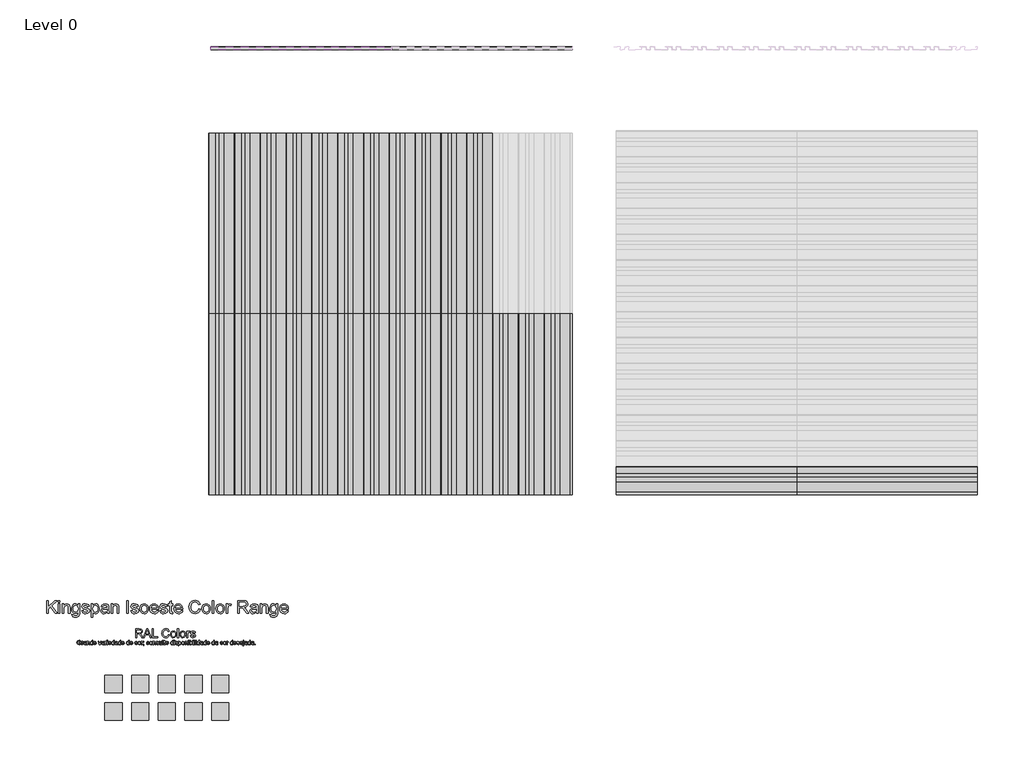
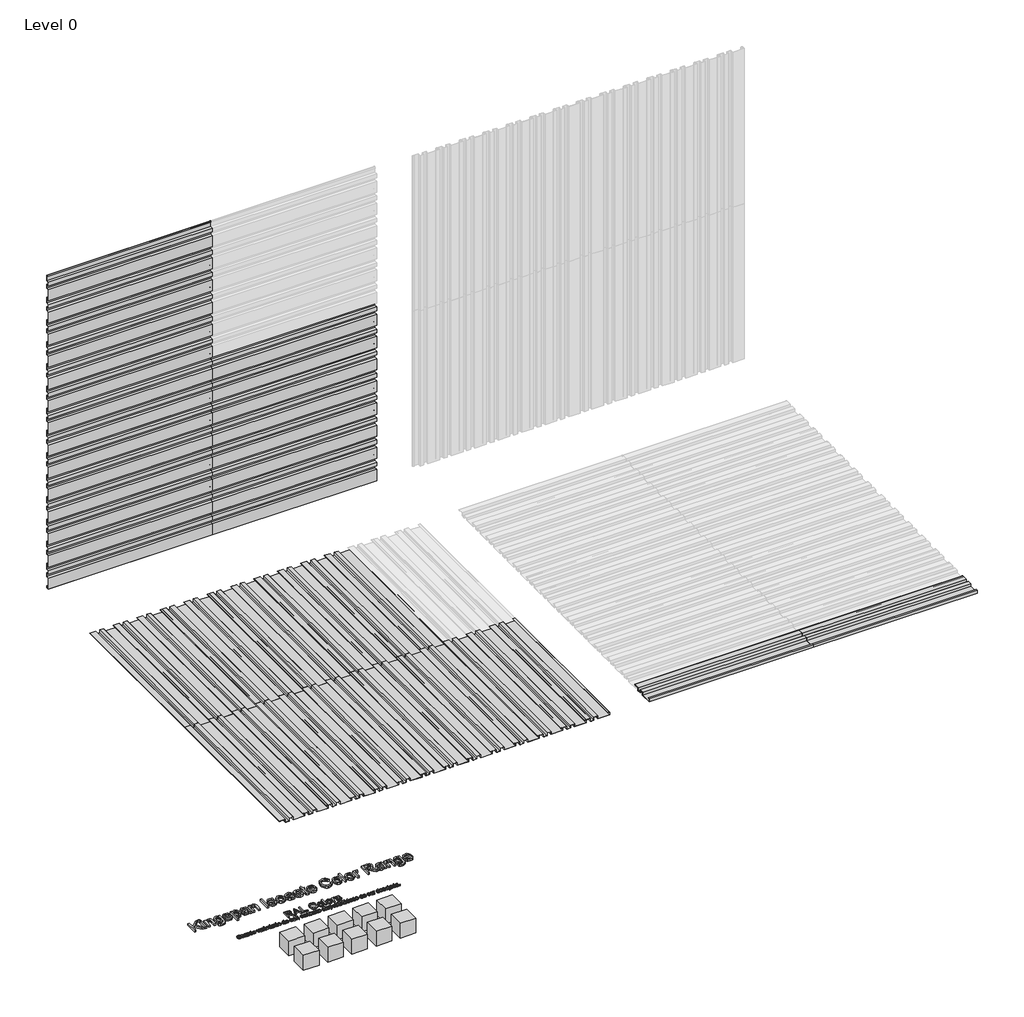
# One storey, part 1 of 2: 60 proxies.
"""IFC4 building model written with IfcOpenShell, lengths in millimetres."""

from ifc_helpers import new_model, si_unit, origin, place, context, project, spatial, transform, mapped, element, save
from components import proxy_32_ks_iso_colour_range_8220f766, proxy_32_ks_iso_colour_range_06d69407, ks_colour_sample_ks_colour_sample_0243efec, mx2_0_standard_panel_ns_31f8ef59, mx2_0_standard_panel_ns_8073d0a4

model = new_model("IFC4")

# Units and contexts
model_context = context("Model", 3, world=origin())
ifc_project = project(units=[si_unit("LENGTHUNIT", "METRE", prefix="MILLI")], contexts=[model_context])

# Site, building, storey
site = spatial("IfcSite", under=ifc_project)
building = spatial("IfcBuilding", under=site)
storey = spatial("IfcBuildingStorey", under=building, Name="Level 0", Elevation=0.0)

# Proxies
placement = place(None, origin())
proxy_32_ks_iso_colour_range_shape = proxy_32_ks_iso_colour_range_8220f766(model_context)
proxy_32_ks_iso_colour_range_2_shape = proxy_32_ks_iso_colour_range_06d69407(model_context)
element("IfcBuildingElementProxy", 1, Name="32-KS-ISO-Colour Range : Kingspan Isoeste Color Range", ObjectType="32-KS-ISO-Colour Range : Kingspan Isoeste Color Range", at=placement, inside=storey, context=model_context, shape_type="MappedRepresentation", body=[
    mapped(proxy_32_ks_iso_colour_range_shape, transform((-3929.8390717, -2223.0925896, 0.0), x_axis=(1.0, 0.0, 0.0), y_axis=(0.0, 1.0, 0.0), z_axis=(0.0, 0.0, 1.0))),
    mapped(proxy_32_ks_iso_colour_range_2_shape, transform((-3929.8390717, -2223.0925896, 0.0), x_axis=(1.0, 0.0, 0.0), y_axis=(0.0, 1.0, 0.0), z_axis=(0.0, 0.0, 1.0))),
])
ks_colour_sample_ks_colour_sample_shape = ks_colour_sample_ks_colour_sample_0243efec(model_context)
element("IfcBuildingElementProxy", 2, Name="KS_Colour Sample : KS_Colour Sample", ObjectType="KS_Colour Sample : KS_Colour Sample", at=placement, inside=storey, context=model_context, shape_type="MappedRepresentation", body=[
    mapped(ks_colour_sample_ks_colour_sample_shape, transform((-3309.8390717, -2663.0925896, 0.0), x_axis=(1.0, 0.0, 0.0), y_axis=(0.0, 1.0, 0.0), z_axis=(0.0, 0.0, 1.0))),
])
element("IfcBuildingElementProxy", 3, Name="KS_Colour Sample : KS_Colour Sample", ObjectType="KS_Colour Sample : KS_Colour Sample", at=placement, inside=storey, context=model_context, shape_type="MappedRepresentation", body=[
    mapped(ks_colour_sample_ks_colour_sample_shape, transform((-3309.8390717, -2343.0925896, 0.0), x_axis=(1.0, 0.0, 0.0), y_axis=(0.0, 1.0, 0.0), z_axis=(0.0, 0.0, 1.0))),
])
element("IfcBuildingElementProxy", 4, Name="KS_Colour Sample : KS_Colour Sample", ObjectType="KS_Colour Sample : KS_Colour Sample", at=placement, inside=storey, context=model_context, shape_type="MappedRepresentation", body=[
    mapped(ks_colour_sample_ks_colour_sample_shape, transform((-4549.8390717, -2663.0925896, 0.0), x_axis=(1.0, 0.0, 0.0), y_axis=(0.0, 1.0, 0.0), z_axis=(0.0, 0.0, 1.0))),
])
element("IfcBuildingElementProxy", 5, Name="KS_Colour Sample : KS_Colour Sample", ObjectType="KS_Colour Sample : KS_Colour Sample", at=placement, inside=storey, context=model_context, shape_type="MappedRepresentation", body=[
    mapped(ks_colour_sample_ks_colour_sample_shape, transform((-4239.8390717, -2663.0925896, 0.0), x_axis=(1.0, 0.0, 0.0), y_axis=(0.0, 1.0, 0.0), z_axis=(0.0, 0.0, 1.0))),
])
element("IfcBuildingElementProxy", 6, Name="KS_Colour Sample : KS_Colour Sample", ObjectType="KS_Colour Sample : KS_Colour Sample", at=placement, inside=storey, context=model_context, shape_type="MappedRepresentation", body=[
    mapped(ks_colour_sample_ks_colour_sample_shape, transform((-3619.8390717, -2663.0925896, 0.0), x_axis=(1.0, 0.0, 0.0), y_axis=(0.0, 1.0, 0.0), z_axis=(0.0, 0.0, 1.0))),
])
element("IfcBuildingElementProxy", 7, Name="KS_Colour Sample : KS_Colour Sample", ObjectType="KS_Colour Sample : KS_Colour Sample", at=placement, inside=storey, context=model_context, shape_type="MappedRepresentation", body=[
    mapped(ks_colour_sample_ks_colour_sample_shape, transform((-4549.8390717, -2343.0925896, 0.0), x_axis=(1.0, 0.0, 0.0), y_axis=(0.0, 1.0, 0.0), z_axis=(0.0, 0.0, 1.0))),
])
element("IfcBuildingElementProxy", 8, Name="KS_Colour Sample : KS_Colour Sample", ObjectType="KS_Colour Sample : KS_Colour Sample", at=placement, inside=storey, context=model_context, shape_type="MappedRepresentation", body=[
    mapped(ks_colour_sample_ks_colour_sample_shape, transform((-4239.8390717, -2343.0925896, 0.0), x_axis=(1.0, 0.0, 0.0), y_axis=(0.0, 1.0, 0.0), z_axis=(0.0, 0.0, 1.0))),
])
element("IfcBuildingElementProxy", 9, Name="KS_Colour Sample : KS_Colour Sample", ObjectType="KS_Colour Sample : KS_Colour Sample", at=placement, inside=storey, context=model_context, shape_type="MappedRepresentation", body=[
    mapped(ks_colour_sample_ks_colour_sample_shape, transform((-3619.8390717, -2343.0925896, 0.0), x_axis=(1.0, 0.0, 0.0), y_axis=(0.0, 1.0, 0.0), z_axis=(0.0, 0.0, 1.0))),
])
element("IfcBuildingElementProxy", 10, Name="KS_Colour Sample : KS_Colour Sample", ObjectType="KS_Colour Sample : KS_Colour Sample", at=placement, inside=storey, context=model_context, shape_type="MappedRepresentation", body=[
    mapped(ks_colour_sample_ks_colour_sample_shape, transform((-3929.8390717, -2343.0925896, 0.0), x_axis=(1.0, 0.0, 0.0), y_axis=(0.0, 1.0, 0.0), z_axis=(0.0, 0.0, 1.0))),
])
element("IfcBuildingElementProxy", 11, Name="KS_Colour Sample : KS_Colour Sample", ObjectType="KS_Colour Sample : KS_Colour Sample", at=placement, inside=storey, context=model_context, shape_type="MappedRepresentation", body=[
    mapped(ks_colour_sample_ks_colour_sample_shape, transform((-3929.8390717, -2663.0925896, 0.0), x_axis=(1.0, 0.0, 0.0), y_axis=(0.0, 1.0, 0.0), z_axis=(0.0, 0.0, 1.0))),
])
mx2_0_standard_panel_ns_shape = mx2_0_standard_panel_ns_31f8ef59(model_context)
element("IfcBuildingElementProxy", 12, Name="MX2.0 : Standard Panel_NS", ObjectType="MX2.0 : Standard Panel_NS", at=placement, inside=storey, context=model_context, shape_type="MappedRepresentation", body=[
    mapped(mx2_0_standard_panel_ns_shape, transform((-3417.7637295, 5063.0274074, 300.0), x_axis=(1.0, 0.0, 0.0), y_axis=(0.0, 0.0, 1.0), z_axis=(0.0, -1.0, 0.0))),
])
element("IfcBuildingElementProxy", 13, Name="MX2.0 : Standard Panel_NS", ObjectType="MX2.0 : Standard Panel_NS", at=placement, inside=storey, context=model_context, shape_type="MappedRepresentation", body=[
    mapped(mx2_0_standard_panel_ns_shape, transform((-3417.7637295, 5063.0274074, 2700.0), x_axis=(1.0, 0.0, 0.0), y_axis=(0.0, 0.0, 1.0), z_axis=(0.0, -1.0, 0.0))),
])
element("IfcBuildingElementProxy", 14, Name="MX2.0 : Standard Panel_NS", ObjectType="MX2.0 : Standard Panel_NS", at=placement, inside=storey, context=model_context, shape_type="MappedRepresentation", body=[
    mapped(mx2_0_standard_panel_ns_shape, transform((-1317.7637295, 5063.0274074, 300.0), x_axis=(1.0, 0.0, 0.0), y_axis=(0.0, 0.0, 1.0), z_axis=(0.0, -1.0, 0.0))),
])
mx2_0_standard_panel_ns_2_shape = mx2_0_standard_panel_ns_8073d0a4(model_context)
element("IfcBuildingElementProxy", 15, Name="MX2.0 : Standard Panel_NS", ObjectType="MX2.0 : Standard Panel_NS", at=placement, inside=storey, context=model_context, shape_type="MappedRepresentation", body=[
    mapped(mx2_0_standard_panel_ns_2_shape, transform((482.2362703, -141.6886547, 0.0), x_axis=(0.0, 1.0, 0.0), y_axis=(-1.0, 0.0, 0.0), z_axis=(0.0, 0.0, 1.0))),
])
element("IfcBuildingElementProxy", 16, Name="MX2.0 : Standard Panel_NS", ObjectType="MX2.0 : Standard Panel_NS", at=placement, inside=storey, context=model_context, shape_type="MappedRepresentation", body=[
    mapped(mx2_0_standard_panel_ns_2_shape, transform((-1917.7637297, -141.6886547, 0.0), x_axis=(0.0, 1.0, 0.0), y_axis=(-1.0, 0.0, 0.0), z_axis=(0.0, 0.0, 1.0))),
])
element("IfcBuildingElementProxy", 17, Name="MX2.0 : Standard Panel_NS", ObjectType="MX2.0 : Standard Panel_NS", at=placement, inside=storey, context=model_context, shape_type="MappedRepresentation", body=[
    mapped(mx2_0_standard_panel_ns_2_shape, transform((-1917.7637297, 1958.3113453, 0.0), x_axis=(0.0, 1.0, 0.0), y_axis=(-1.0, 0.0, 0.0), z_axis=(0.0, 0.0, 1.0))),
])
element("IfcBuildingElementProxy", 18, Name="MX2.0 : Standard Panel_NS", ObjectType="MX2.0 : Standard Panel_NS", at=placement, inside=storey, context=model_context, shape_type="MappedRepresentation", body=[
    mapped(mx2_0_standard_panel_ns_shape, transform((-3417.7637295, 5063.0274074, 0.0), x_axis=(1.0, 0.0, 0.0), y_axis=(0.0, 0.0, 1.0), z_axis=(0.0, -1.0, 0.0))),
])
element("IfcBuildingElementProxy", 19, Name="MX2.0 : Standard Panel_NS", ObjectType="MX2.0 : Standard Panel_NS", at=placement, inside=storey, context=model_context, shape_type="MappedRepresentation", body=[
    mapped(mx2_0_standard_panel_ns_shape, transform((-3417.7637295, 5063.0274074, 2400.0), x_axis=(1.0, 0.0, 0.0), y_axis=(0.0, 0.0, 1.0), z_axis=(0.0, -1.0, 0.0))),
])
element("IfcBuildingElementProxy", 20, Name="MX2.0 : Standard Panel_NS", ObjectType="MX2.0 : Standard Panel_NS", at=placement, inside=storey, context=model_context, shape_type="MappedRepresentation", body=[
    mapped(mx2_0_standard_panel_ns_shape, transform((-1317.7637295, 5063.0274074, 0.0), x_axis=(1.0, 0.0, 0.0), y_axis=(0.0, 0.0, 1.0), z_axis=(0.0, -1.0, 0.0))),
])
element("IfcBuildingElementProxy", 21, Name="MX2.0 : Standard Panel_NS", ObjectType="MX2.0 : Standard Panel_NS", at=placement, inside=storey, context=model_context, shape_type="MappedRepresentation", body=[
    mapped(mx2_0_standard_panel_ns_2_shape, transform((-1617.7637297, -141.6886547, 0.0), x_axis=(0.0, 1.0, 0.0), y_axis=(-1.0, 0.0, 0.0), z_axis=(0.0, 0.0, 1.0))),
])
element("IfcBuildingElementProxy", 22, Name="MX2.0 : Standard Panel_NS", ObjectType="MX2.0 : Standard Panel_NS", at=placement, inside=storey, context=model_context, shape_type="MappedRepresentation", body=[
    mapped(mx2_0_standard_panel_ns_2_shape, transform((1289.7088668, -141.6886547, 0.0), x_axis=(1.0, 0.0, 0.0), y_axis=(0.0, 1.0, 0.0), z_axis=(0.0, 0.0, 1.0))),
])
element("IfcBuildingElementProxy", 23, Name="MX2.0 : Standard Panel_NS", ObjectType="MX2.0 : Standard Panel_NS", at=placement, inside=storey, context=model_context, shape_type="MappedRepresentation", body=[
    mapped(mx2_0_standard_panel_ns_2_shape, transform((-1617.7637297, 1958.3113453, 0.0), x_axis=(0.0, 1.0, 0.0), y_axis=(-1.0, 0.0, 0.0), z_axis=(0.0, 0.0, 1.0))),
])
element("IfcBuildingElementProxy", 24, Name="MX2.0 : Standard Panel_NS", ObjectType="MX2.0 : Standard Panel_NS", at=placement, inside=storey, context=model_context, shape_type="MappedRepresentation", body=[
    mapped(mx2_0_standard_panel_ns_2_shape, transform((3389.7088668, -141.6886547, 0.0), x_axis=(1.0, 0.0, 0.0), y_axis=(0.0, 1.0, 0.0), z_axis=(0.0, 0.0, 1.0))),
])
element("IfcBuildingElementProxy", 25, Name="MX2.0 : Standard Panel_NS", ObjectType="MX2.0 : Standard Panel_NS", at=placement, inside=storey, context=model_context, shape_type="MappedRepresentation", body=[
    mapped(mx2_0_standard_panel_ns_2_shape, transform((782.2362705, -141.6886547, 0.0), x_axis=(0.0, 1.0, 0.0), y_axis=(-1.0, 0.0, 0.0), z_axis=(0.0, 0.0, 1.0))),
])
element("IfcBuildingElementProxy", 26, Name="MX2.0 : Standard Panel_NS", ObjectType="MX2.0 : Standard Panel_NS", at=placement, inside=storey, context=model_context, shape_type="MappedRepresentation", body=[
    mapped(mx2_0_standard_panel_ns_2_shape, transform((-3117.7637295, -141.6886547, 0.0), x_axis=(0.0, 1.0, 0.0), y_axis=(-1.0, 0.0, 0.0), z_axis=(0.0, 0.0, 1.0))),
])
element("IfcBuildingElementProxy", 27, Name="MX2.0 : Standard Panel_NS", ObjectType="MX2.0 : Standard Panel_NS", at=placement, inside=storey, context=model_context, shape_type="MappedRepresentation", body=[
    mapped(mx2_0_standard_panel_ns_2_shape, transform((-717.7637297, -141.6886547, 0.0), x_axis=(0.0, 1.0, 0.0), y_axis=(-1.0, 0.0, 0.0), z_axis=(0.0, 0.0, 1.0))),
])
element("IfcBuildingElementProxy", 28, Name="MX2.0 : Standard Panel_NS", ObjectType="MX2.0 : Standard Panel_NS", at=placement, inside=storey, context=model_context, shape_type="MappedRepresentation", body=[
    mapped(mx2_0_standard_panel_ns_2_shape, transform((-3117.7637295, 1958.3113453, 0.0), x_axis=(0.0, 1.0, 0.0), y_axis=(-1.0, 0.0, 0.0), z_axis=(0.0, 0.0, 1.0))),
])
element("IfcBuildingElementProxy", 29, Name="MX2.0 : Standard Panel_NS", ObjectType="MX2.0 : Standard Panel_NS", at=placement, inside=storey, context=model_context, shape_type="MappedRepresentation", body=[
    mapped(mx2_0_standard_panel_ns_2_shape, transform((-717.7637297, 1958.3113453, 0.0), x_axis=(0.0, 1.0, 0.0), y_axis=(-1.0, 0.0, 0.0), z_axis=(0.0, 0.0, 1.0))),
])
element("IfcBuildingElementProxy", 30, Name="MX2.0 : Standard Panel_NS", ObjectType="MX2.0 : Standard Panel_NS", at=placement, inside=storey, context=model_context, shape_type="MappedRepresentation", body=[
    mapped(mx2_0_standard_panel_ns_shape, transform((-3417.7637295, 5063.0274074, 1500.0), x_axis=(1.0, 0.0, 0.0), y_axis=(0.0, 0.0, 1.0), z_axis=(0.0, -1.0, 0.0))),
])
element("IfcBuildingElementProxy", 31, Name="MX2.0 : Standard Panel_NS", ObjectType="MX2.0 : Standard Panel_NS", at=placement, inside=storey, context=model_context, shape_type="MappedRepresentation", body=[
    mapped(mx2_0_standard_panel_ns_shape, transform((-3417.7637295, 5063.0274074, 3900.0), x_axis=(1.0, 0.0, 0.0), y_axis=(0.0, 0.0, 1.0), z_axis=(0.0, -1.0, 0.0))),
])
element("IfcBuildingElementProxy", 32, Name="MX2.0 : Standard Panel_NS", ObjectType="MX2.0 : Standard Panel_NS", at=placement, inside=storey, context=model_context, shape_type="MappedRepresentation", body=[
    mapped(mx2_0_standard_panel_ns_shape, transform((-1317.7637295, 5063.0274074, 1500.0), x_axis=(1.0, 0.0, 0.0), y_axis=(0.0, 0.0, 1.0), z_axis=(0.0, -1.0, 0.0))),
])
element("IfcBuildingElementProxy", 33, Name="MX2.0 : Standard Panel_NS", ObjectType="MX2.0 : Standard Panel_NS", at=placement, inside=storey, context=model_context, shape_type="MappedRepresentation", body=[
    mapped(mx2_0_standard_panel_ns_shape, transform((-3417.7637295, 5063.0274074, 600.0), x_axis=(1.0, 0.0, 0.0), y_axis=(0.0, 0.0, 1.0), z_axis=(0.0, -1.0, 0.0))),
])
element("IfcBuildingElementProxy", 34, Name="MX2.0 : Standard Panel_NS", ObjectType="MX2.0 : Standard Panel_NS", at=placement, inside=storey, context=model_context, shape_type="MappedRepresentation", body=[
    mapped(mx2_0_standard_panel_ns_shape, transform((-3417.7637295, 5063.0274074, 3000.0), x_axis=(1.0, 0.0, 0.0), y_axis=(0.0, 0.0, 1.0), z_axis=(0.0, -1.0, 0.0))),
])
element("IfcBuildingElementProxy", 35, Name="MX2.0 : Standard Panel_NS", ObjectType="MX2.0 : Standard Panel_NS", at=placement, inside=storey, context=model_context, shape_type="MappedRepresentation", body=[
    mapped(mx2_0_standard_panel_ns_shape, transform((-1317.7637295, 5063.0274074, 600.0), x_axis=(1.0, 0.0, 0.0), y_axis=(0.0, 0.0, 1.0), z_axis=(0.0, -1.0, 0.0))),
])
element("IfcBuildingElementProxy", 36, Name="MX2.0 : Standard Panel_NS", ObjectType="MX2.0 : Standard Panel_NS", at=placement, inside=storey, context=model_context, shape_type="MappedRepresentation", body=[
    mapped(mx2_0_standard_panel_ns_shape, transform((-3417.7637295, 5063.0274074, 900.0), x_axis=(1.0, 0.0, 0.0), y_axis=(0.0, 0.0, 1.0), z_axis=(0.0, -1.0, 0.0))),
])
element("IfcBuildingElementProxy", 37, Name="MX2.0 : Standard Panel_NS", ObjectType="MX2.0 : Standard Panel_NS", at=placement, inside=storey, context=model_context, shape_type="MappedRepresentation", body=[
    mapped(mx2_0_standard_panel_ns_shape, transform((-3417.7637295, 5063.0274074, 3300.0), x_axis=(1.0, 0.0, 0.0), y_axis=(0.0, 0.0, 1.0), z_axis=(0.0, -1.0, 0.0))),
])
element("IfcBuildingElementProxy", 38, Name="MX2.0 : Standard Panel_NS", ObjectType="MX2.0 : Standard Panel_NS", at=placement, inside=storey, context=model_context, shape_type="MappedRepresentation", body=[
    mapped(mx2_0_standard_panel_ns_shape, transform((-1317.7637295, 5063.0274074, 900.0), x_axis=(1.0, 0.0, 0.0), y_axis=(0.0, 0.0, 1.0), z_axis=(0.0, -1.0, 0.0))),
])
element("IfcBuildingElementProxy", 39, Name="MX2.0 : Standard Panel_NS", ObjectType="MX2.0 : Standard Panel_NS", at=placement, inside=storey, context=model_context, shape_type="MappedRepresentation", body=[
    mapped(mx2_0_standard_panel_ns_shape, transform((-3417.7637295, 5063.0274074, 1200.0), x_axis=(1.0, 0.0, 0.0), y_axis=(0.0, 0.0, 1.0), z_axis=(0.0, -1.0, 0.0))),
])
element("IfcBuildingElementProxy", 40, Name="MX2.0 : Standard Panel_NS", ObjectType="MX2.0 : Standard Panel_NS", at=placement, inside=storey, context=model_context, shape_type="MappedRepresentation", body=[
    mapped(mx2_0_standard_panel_ns_shape, transform((-3417.7637295, 5063.0274074, 3600.0), x_axis=(1.0, 0.0, 0.0), y_axis=(0.0, 0.0, 1.0), z_axis=(0.0, -1.0, 0.0))),
])
element("IfcBuildingElementProxy", 41, Name="MX2.0 : Standard Panel_NS", ObjectType="MX2.0 : Standard Panel_NS", at=placement, inside=storey, context=model_context, shape_type="MappedRepresentation", body=[
    mapped(mx2_0_standard_panel_ns_shape, transform((-1317.7637295, 5063.0274074, 1200.0), x_axis=(1.0, 0.0, 0.0), y_axis=(0.0, 0.0, 1.0), z_axis=(0.0, -1.0, 0.0))),
])
element("IfcBuildingElementProxy", 42, Name="MX2.0 : Standard Panel_NS", ObjectType="MX2.0 : Standard Panel_NS", at=placement, inside=storey, context=model_context, shape_type="MappedRepresentation", body=[
    mapped(mx2_0_standard_panel_ns_shape, transform((-3417.7637295, 5063.0274074, 1800.0), x_axis=(1.0, 0.0, 0.0), y_axis=(0.0, 0.0, 1.0), z_axis=(0.0, -1.0, 0.0))),
])
element("IfcBuildingElementProxy", 43, Name="MX2.0 : Standard Panel_NS", ObjectType="MX2.0 : Standard Panel_NS", at=placement, inside=storey, context=model_context, shape_type="MappedRepresentation", body=[
    mapped(mx2_0_standard_panel_ns_shape, transform((-1317.7637295, 5063.0274074, 1800.0), x_axis=(1.0, 0.0, 0.0), y_axis=(0.0, 0.0, 1.0), z_axis=(0.0, -1.0, 0.0))),
])
element("IfcBuildingElementProxy", 44, Name="MX2.0 : Standard Panel_NS", ObjectType="MX2.0 : Standard Panel_NS", at=placement, inside=storey, context=model_context, shape_type="MappedRepresentation", body=[
    mapped(mx2_0_standard_panel_ns_shape, transform((-3417.7637295, 5063.0274074, 2100.0), x_axis=(1.0, 0.0, 0.0), y_axis=(0.0, 0.0, 1.0), z_axis=(0.0, -1.0, 0.0))),
])
element("IfcBuildingElementProxy", 45, Name="MX2.0 : Standard Panel_NS", ObjectType="MX2.0 : Standard Panel_NS", at=placement, inside=storey, context=model_context, shape_type="MappedRepresentation", body=[
    mapped(mx2_0_standard_panel_ns_shape, transform((-1317.7637295, 5063.0274074, 2100.0), x_axis=(1.0, 0.0, 0.0), y_axis=(0.0, 0.0, 1.0), z_axis=(0.0, -1.0, 0.0))),
])
element("IfcBuildingElementProxy", 46, Name="MX2.0 : Standard Panel_NS", ObjectType="MX2.0 : Standard Panel_NS", at=placement, inside=storey, context=model_context, shape_type="MappedRepresentation", body=[
    mapped(mx2_0_standard_panel_ns_2_shape, transform((182.2362703, -141.6886547, 0.0), x_axis=(0.0, 1.0, 0.0), y_axis=(-1.0, 0.0, 0.0), z_axis=(0.0, 0.0, 1.0))),
])
element("IfcBuildingElementProxy", 47, Name="MX2.0 : Standard Panel_NS", ObjectType="MX2.0 : Standard Panel_NS", at=placement, inside=storey, context=model_context, shape_type="MappedRepresentation", body=[
    mapped(mx2_0_standard_panel_ns_2_shape, transform((-2217.7637297, -141.6886547, 0.0), x_axis=(0.0, 1.0, 0.0), y_axis=(-1.0, 0.0, 0.0), z_axis=(0.0, 0.0, 1.0))),
])
element("IfcBuildingElementProxy", 48, Name="MX2.0 : Standard Panel_NS", ObjectType="MX2.0 : Standard Panel_NS", at=placement, inside=storey, context=model_context, shape_type="MappedRepresentation", body=[
    mapped(mx2_0_standard_panel_ns_2_shape, transform((-2217.7637297, 1958.3113453, 0.0), x_axis=(0.0, 1.0, 0.0), y_axis=(-1.0, 0.0, 0.0), z_axis=(0.0, 0.0, 1.0))),
])
element("IfcBuildingElementProxy", 49, Name="MX2.0 : Standard Panel_NS", ObjectType="MX2.0 : Standard Panel_NS", at=placement, inside=storey, context=model_context, shape_type="MappedRepresentation", body=[
    mapped(mx2_0_standard_panel_ns_2_shape, transform((-117.7637297, -141.6886547, 0.0), x_axis=(0.0, 1.0, 0.0), y_axis=(-1.0, 0.0, 0.0), z_axis=(0.0, 0.0, 1.0))),
])
element("IfcBuildingElementProxy", 50, Name="MX2.0 : Standard Panel_NS", ObjectType="MX2.0 : Standard Panel_NS", at=placement, inside=storey, context=model_context, shape_type="MappedRepresentation", body=[
    mapped(mx2_0_standard_panel_ns_2_shape, transform((-2517.7637297, -141.6886547, 0.0), x_axis=(0.0, 1.0, 0.0), y_axis=(-1.0, 0.0, 0.0), z_axis=(0.0, 0.0, 1.0))),
])
element("IfcBuildingElementProxy", 51, Name="MX2.0 : Standard Panel_NS", ObjectType="MX2.0 : Standard Panel_NS", at=placement, inside=storey, context=model_context, shape_type="MappedRepresentation", body=[
    mapped(mx2_0_standard_panel_ns_2_shape, transform((-2517.7637297, 1958.3113453, 0.0), x_axis=(0.0, 1.0, 0.0), y_axis=(-1.0, 0.0, 0.0), z_axis=(0.0, 0.0, 1.0))),
])
element("IfcBuildingElementProxy", 52, Name="MX2.0 : Standard Panel_NS", ObjectType="MX2.0 : Standard Panel_NS", at=placement, inside=storey, context=model_context, shape_type="MappedRepresentation", body=[
    mapped(mx2_0_standard_panel_ns_2_shape, transform((-117.7637297, 1958.3113453, 0.0), x_axis=(0.0, 1.0, 0.0), y_axis=(-1.0, 0.0, 0.0), z_axis=(0.0, 0.0, 1.0))),
])
element("IfcBuildingElementProxy", 53, Name="MX2.0 : Standard Panel_NS", ObjectType="MX2.0 : Standard Panel_NS", at=placement, inside=storey, context=model_context, shape_type="MappedRepresentation", body=[
    mapped(mx2_0_standard_panel_ns_2_shape, transform((-417.7637297, -141.6886547, 0.0), x_axis=(0.0, 1.0, 0.0), y_axis=(-1.0, 0.0, 0.0), z_axis=(0.0, 0.0, 1.0))),
])
element("IfcBuildingElementProxy", 54, Name="MX2.0 : Standard Panel_NS", ObjectType="MX2.0 : Standard Panel_NS", at=placement, inside=storey, context=model_context, shape_type="MappedRepresentation", body=[
    mapped(mx2_0_standard_panel_ns_2_shape, transform((-2817.7637297, -141.6886547, 0.0), x_axis=(0.0, 1.0, 0.0), y_axis=(-1.0, 0.0, 0.0), z_axis=(0.0, 0.0, 1.0))),
])
element("IfcBuildingElementProxy", 55, Name="MX2.0 : Standard Panel_NS", ObjectType="MX2.0 : Standard Panel_NS", at=placement, inside=storey, context=model_context, shape_type="MappedRepresentation", body=[
    mapped(mx2_0_standard_panel_ns_2_shape, transform((-2817.7637297, 1958.3113453, 0.0), x_axis=(0.0, 1.0, 0.0), y_axis=(-1.0, 0.0, 0.0), z_axis=(0.0, 0.0, 1.0))),
])
element("IfcBuildingElementProxy", 56, Name="MX2.0 : Standard Panel_NS", ObjectType="MX2.0 : Standard Panel_NS", at=placement, inside=storey, context=model_context, shape_type="MappedRepresentation", body=[
    mapped(mx2_0_standard_panel_ns_2_shape, transform((-417.7637297, 1958.3113453, 0.0), x_axis=(0.0, 1.0, 0.0), y_axis=(-1.0, 0.0, 0.0), z_axis=(0.0, 0.0, 1.0))),
])
element("IfcBuildingElementProxy", 57, Name="MX2.0 : Standard Panel_NS", ObjectType="MX2.0 : Standard Panel_NS", at=placement, inside=storey, context=model_context, shape_type="MappedRepresentation", body=[
    mapped(mx2_0_standard_panel_ns_2_shape, transform((-1017.7637297, -141.6886547, 0.0), x_axis=(0.0, 1.0, 0.0), y_axis=(-1.0, 0.0, 0.0), z_axis=(0.0, 0.0, 1.0))),
])
element("IfcBuildingElementProxy", 58, Name="MX2.0 : Standard Panel_NS", ObjectType="MX2.0 : Standard Panel_NS", at=placement, inside=storey, context=model_context, shape_type="MappedRepresentation", body=[
    mapped(mx2_0_standard_panel_ns_2_shape, transform((-1017.7637297, 1958.3113453, 0.0), x_axis=(0.0, 1.0, 0.0), y_axis=(-1.0, 0.0, 0.0), z_axis=(0.0, 0.0, 1.0))),
])
element("IfcBuildingElementProxy", 59, Name="MX2.0 : Standard Panel_NS", ObjectType="MX2.0 : Standard Panel_NS", at=placement, inside=storey, context=model_context, shape_type="MappedRepresentation", body=[
    mapped(mx2_0_standard_panel_ns_2_shape, transform((-1317.7637297, -141.6886547, 0.0), x_axis=(0.0, 1.0, 0.0), y_axis=(-1.0, 0.0, 0.0), z_axis=(0.0, 0.0, 1.0))),
])
element("IfcBuildingElementProxy", 60, Name="MX2.0 : Standard Panel_NS", ObjectType="MX2.0 : Standard Panel_NS", at=placement, inside=storey, context=model_context, shape_type="MappedRepresentation", body=[
    mapped(mx2_0_standard_panel_ns_2_shape, transform((-1317.7637297, 1958.3113453, 0.0), x_axis=(0.0, 1.0, 0.0), y_axis=(-1.0, 0.0, 0.0), z_axis=(0.0, 0.0, 1.0))),
])

save(model, "model.ifc")
